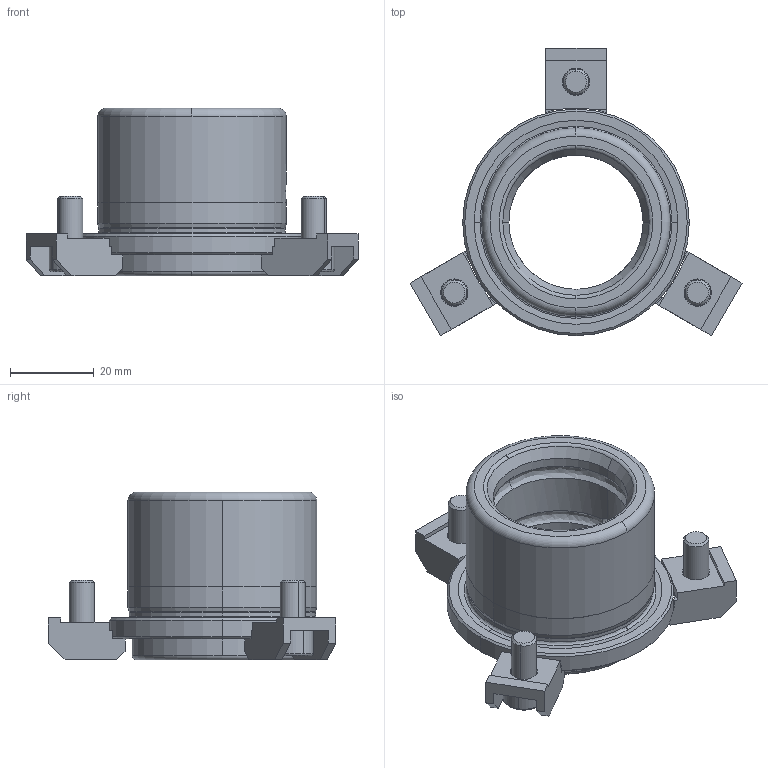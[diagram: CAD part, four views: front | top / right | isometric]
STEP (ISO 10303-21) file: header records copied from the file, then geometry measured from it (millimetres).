
FILE_DESCRIPTION((''),'2;1');
FILE_NAME('B12_032_010.stp','2008-11-04T13:49:24',(''),(''),'Mechanical Desktop 2009','Mechanical Desktop 2009',', , ');
FILE_SCHEMA(('CONFIG_CONTROL_DESIGN'));
Length unit declared in the file: millimetre
Products named in the file (2): Product; blmdl1
Assembly tree (1 placements, depth 2):
  Product
    blmdl1
Bounding box: 79.13 x 68.53 x 40 mm (x, y, z)
Volume: 37302.1 mm3; surface area: 17603.4 mm2
Topology: 7 solids, 7 shells, 196 faces, 510 edges, 335 vertices
Faces by surface type: plane 104, cylinder 47, cone 16, bspline 15, torus 14
Entity records: 7076 total; most frequent: CARTESIAN_POINT 2022, DIRECTION 1070, ORIENTED_EDGE 1020, EDGE_CURVE 510, AXIS2_PLACEMENT_3D 385, VERTEX_POINT 335, VECTOR 300, LINE 300
